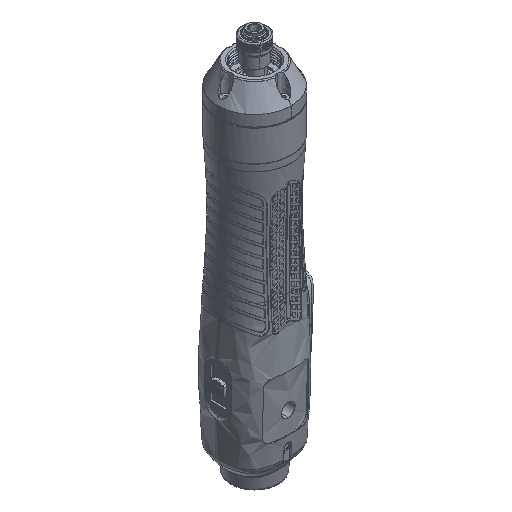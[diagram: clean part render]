
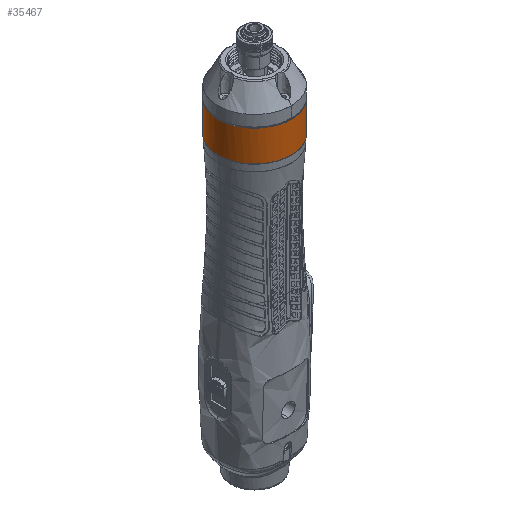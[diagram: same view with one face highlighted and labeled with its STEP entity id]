
A CAD part, isometric view. The second image highlights one B-rep face of the part: STEP entity #35467.
In plain terms, the highlighted free-form (B-spline) face has degree [1, 3] with [2, 4] control points.
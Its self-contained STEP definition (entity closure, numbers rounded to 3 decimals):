
#95 = CARTESIAN_POINT ( 'NONE',  ( -34.153, -11.384, -40.5 ) ) ;
#5818 = CARTESIAN_POINT ( 'NONE',  ( 11.384, -11.384, -26.9 ) ) ;
#10745 = EDGE_CURVE ( 'NONE', #109565, #32922, #85003, .T. ) ;
#15248 = CARTESIAN_POINT ( 'NONE',  ( -11.384, 11.384, -26.9 ) ) ;
#15662 = EDGE_CURVE ( 'NONE', #32922, #120628, #77709, .T. ) ;
#22723 = CARTESIAN_POINT ( 'NONE',  ( -11.384, 11.384, -26.9 ) ) ;
#26548 = CARTESIAN_POINT ( 'NONE',  ( -11.384, -34.153, -40.5 ) ) ;
#27712 = CARTESIAN_POINT ( 'NONE',  ( -11.384, 11.384, -26.9 ) ) ;
#29192 =( BOUNDED_CURVE ( )  B_SPLINE_CURVE ( 3, ( #22723, #51078, #32164, #88903 ),
 .UNSPECIFIED., .F., .F. ) 
 B_SPLINE_CURVE_WITH_KNOTS ( ( 4, 4 ),
 ( -1., 0. ),
 .UNSPECIFIED. ) 
 CURVE ( )  GEOMETRIC_REPRESENTATION_ITEM ( )  RATIONAL_B_SPLINE_CURVE ( ( 1., 0.333, 0.333, 1. ) ) 
 REPRESENTATION_ITEM ( '' )  );
#29615 = EDGE_LOOP ( 'NONE', ( #81270, #108531, #123300, #56825 ) ) ;
#32164 = CARTESIAN_POINT ( 'NONE',  ( -11.384, -34.153, -26.9 ) ) ;
#32922 = VERTEX_POINT ( 'NONE', #50424 ) ;
#34140 = CARTESIAN_POINT ( 'NONE',  ( 11.384, -11.384, -40.5 ) ) ;
#35261 = VERTEX_POINT ( 'NONE', #90232 ) ;
#35467 = ADVANCED_FACE ( 'NONE', ( #110986 ), #113232, .F. ) ;
#50424 = CARTESIAN_POINT ( 'NONE',  ( -11.384, 11.384, -40.5 ) ) ;
#51078 = CARTESIAN_POINT ( 'NONE',  ( -34.153, -11.384, -26.9 ) ) ;
#52181 = EDGE_CURVE ( 'NONE', #35261, #109565, #59248, .T. ) ;
#56825 = ORIENTED_EDGE ( 'NONE', *, *, #110679, .F. ) ;
#57410 = CARTESIAN_POINT ( 'NONE',  ( 11.384, -11.384, -40.5 ) ) ;
#59248 = B_SPLINE_CURVE_WITH_KNOTS ( 'NONE', 1,
 ( #93562, #94169 ),
 .UNSPECIFIED., .F., .F.,
 ( 2, 2 ),
 ( -1., 0. ),
 .UNSPECIFIED. ) ;
#62495 = CARTESIAN_POINT ( 'NONE',  ( -11.384, 11.384, -40.5 ) ) ;
#66856 = CARTESIAN_POINT ( 'NONE',  ( -11.384, -34.153, -40.5 ) ) ;
#71950 = CARTESIAN_POINT ( 'NONE',  ( -34.153, -11.384, -40.5 ) ) ;
#73193 = CARTESIAN_POINT ( 'NONE',  ( -34.153, -11.384, -26.9 ) ) ;
#77709 = B_SPLINE_CURVE_WITH_KNOTS ( 'NONE', 1,
 ( #106066, #84689 ),
 .UNSPECIFIED., .F., .F.,
 ( 2, 2 ),
 ( -1., 0. ),
 .UNSPECIFIED. ) ;
#81270 = ORIENTED_EDGE ( 'NONE', *, *, #15662, .F. ) ;
#84689 = CARTESIAN_POINT ( 'NONE',  ( -11.384, 11.384, -26.9 ) ) ;
#85003 =( BOUNDED_CURVE ( )  B_SPLINE_CURVE ( 3, ( #57410, #66856, #95, #114735 ),
 .UNSPECIFIED., .F., .T. ) 
 B_SPLINE_CURVE_WITH_KNOTS ( ( 4, 4 ),
 ( -1., 0. ),
 .UNSPECIFIED. ) 
 CURVE ( )  GEOMETRIC_REPRESENTATION_ITEM ( )  RATIONAL_B_SPLINE_CURVE ( ( 1., 0.333, 0.333, 1. ) ) 
 REPRESENTATION_ITEM ( '' )  );
#88903 = CARTESIAN_POINT ( 'NONE',  ( 11.384, -11.384, -26.9 ) ) ;
#90232 = CARTESIAN_POINT ( 'NONE',  ( 11.384, -11.384, -26.9 ) ) ;
#93562 = CARTESIAN_POINT ( 'NONE',  ( 11.384, -11.384, -26.9 ) ) ;
#94169 = CARTESIAN_POINT ( 'NONE',  ( 11.384, -11.384, -40.5 ) ) ;
#106066 = CARTESIAN_POINT ( 'NONE',  ( -11.384, 11.384, -40.5 ) ) ;
#108531 = ORIENTED_EDGE ( 'NONE', *, *, #10745, .F. ) ;
#109565 = VERTEX_POINT ( 'NONE', #118284 ) ;
#110679 = EDGE_CURVE ( 'NONE', #120628, #35261, #29192, .T. ) ;
#110986 = FACE_OUTER_BOUND ( 'NONE', #29615, .T. ) ;
#113232 =( BOUNDED_SURFACE ( )  B_SPLINE_SURFACE ( 1, 3, ( 
 ( #5818, #119842, #73193, #15248 ),
 ( #34140, #26548, #71950, #62495 ) ),
 .UNSPECIFIED., .F., .F., .F. ) 
 B_SPLINE_SURFACE_WITH_KNOTS ( ( 2, 2 ),
 ( 4, 4 ),
 ( 0., 1. ),
 ( 0., 1. ),
 .UNSPECIFIED. ) 
 GEOMETRIC_REPRESENTATION_ITEM ( )  RATIONAL_B_SPLINE_SURFACE ( (
 ( 1., 0.333, 0.333, 1.),
 ( 1., 0.333, 0.333, 1.) ) ) 
 REPRESENTATION_ITEM ( '' )  SURFACE ( )  );
#114735 = CARTESIAN_POINT ( 'NONE',  ( -11.384, 11.384, -40.5 ) ) ;
#118284 = CARTESIAN_POINT ( 'NONE',  ( 11.384, -11.384, -40.5 ) ) ;
#119842 = CARTESIAN_POINT ( 'NONE',  ( -11.384, -34.153, -26.9 ) ) ;
#120628 = VERTEX_POINT ( 'NONE', #27712 ) ;
#123300 = ORIENTED_EDGE ( 'NONE', *, *, #52181, .F. ) ;
